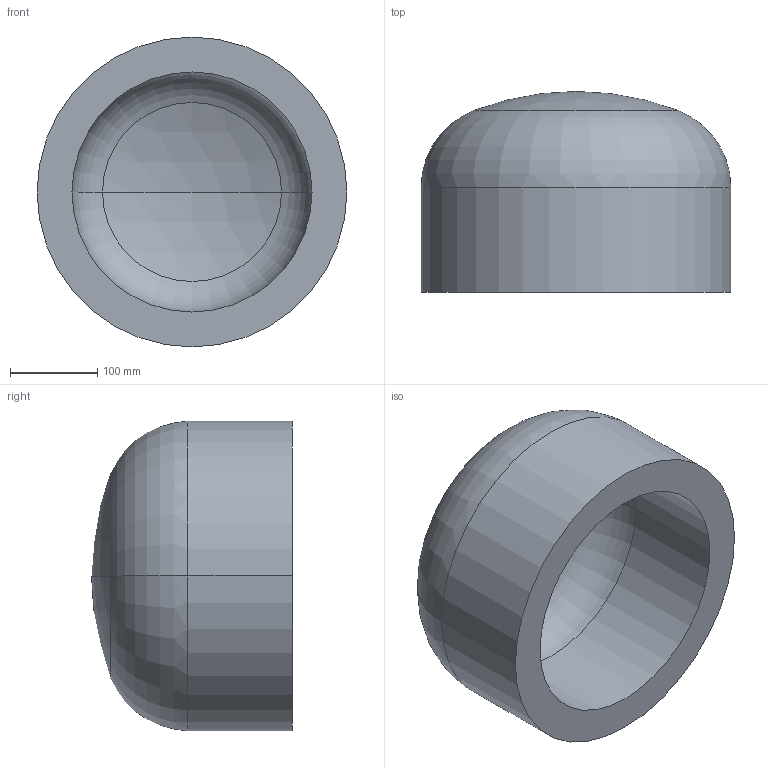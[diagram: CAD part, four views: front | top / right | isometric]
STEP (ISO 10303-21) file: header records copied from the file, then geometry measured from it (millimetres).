
FILE_DESCRIPTION (( 'STEP AP203' ), '1' );
FILE_NAME ('DIN 28013 Korbbogenform_-_Boden DIN 28013 - 355,6 x 120 - I - s=40.step', '2016-07-01T07:48:06', ( '' ), ( '' ), 'SwSTEP 2.0', 'SolidWorks 2013', '' );
FILE_SCHEMA (( 'CONFIG_CONTROL_DESIGN' ));
Length unit declared in the file: millimetre
Products named in the file (1): DIN 28013 Korbbogenform_-_Boden DIN 28013 - 355,6 x 120 - I - s=40
Bounding box: 355.6 x 230.49 x 355.6 mm (x, y, z)
Volume: 9556343.1 mm3; surface area: 520827.6 mm2
Topology: 1 solids, 1 shells, 13 faces, 24 edges, 14 vertices
Faces by surface type: torus 4, cylinder 4, sphere 4, plane 1
Entity records: 407 total; most frequent: DIRECTION 72, CARTESIAN_POINT 52, ORIENTED_EDGE 48, AXIS2_PLACEMENT_3D 34, EDGE_CURVE 24, CIRCLE 20, VERTEX_POINT 14, EDGE_LOOP 14
